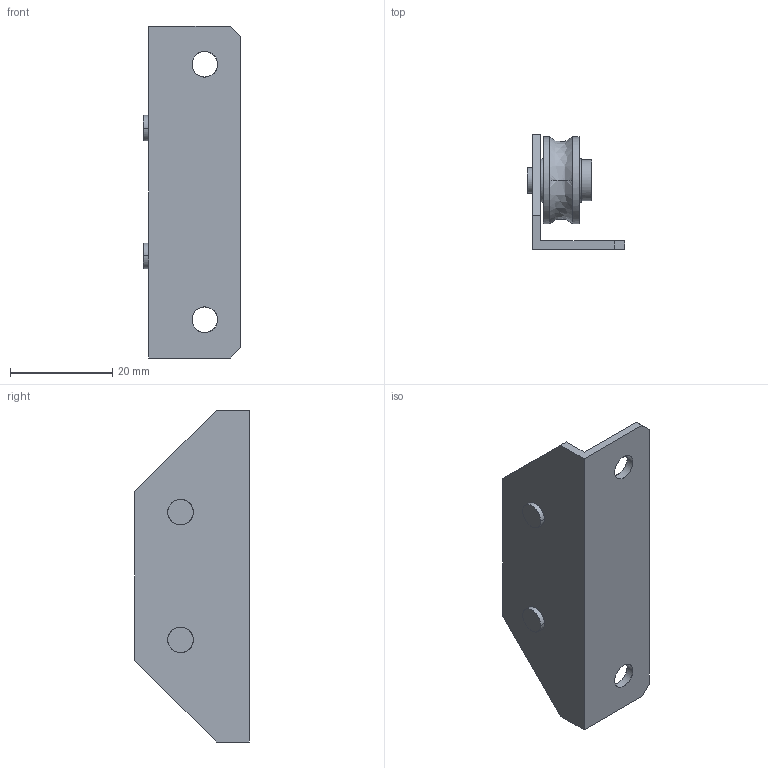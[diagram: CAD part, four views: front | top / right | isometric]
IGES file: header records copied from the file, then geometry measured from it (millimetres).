
Global section: file name: No Iges File Name specified; native system: AutoDesk Inventor R11.0; preprocessor: AutoDesk Inventor Iges Exporter R11.0; author: No Author specified; organization: No Organization specified; date: 20190511.103744; units: millimetre
Bounding box: 19 x 22.5 x 65 mm (x, y, z)
Surface area: 6689.9 mm2 (no closed solid volume)
Topology: 0 solids, 0 shells, 60 faces, 404 edges, 404 vertices
Faces by surface type: bspline 60
